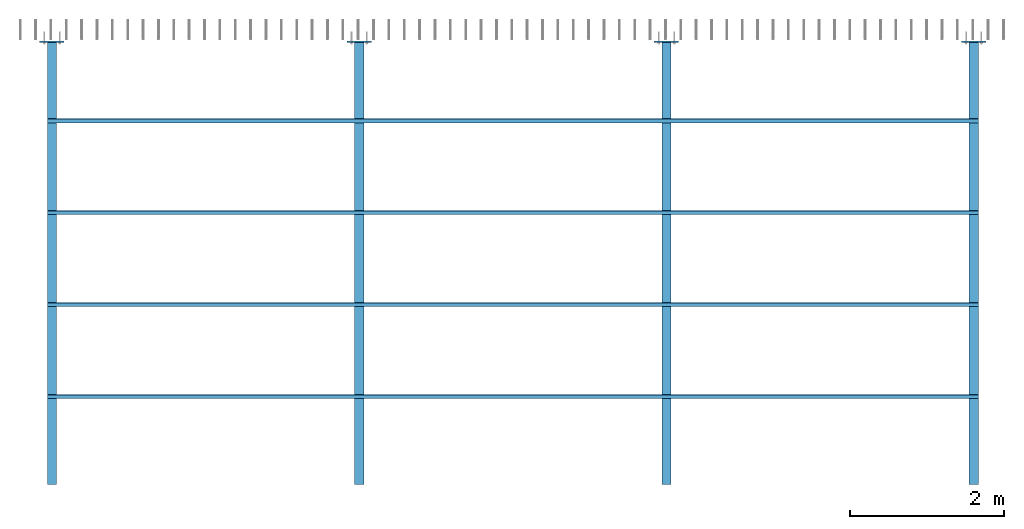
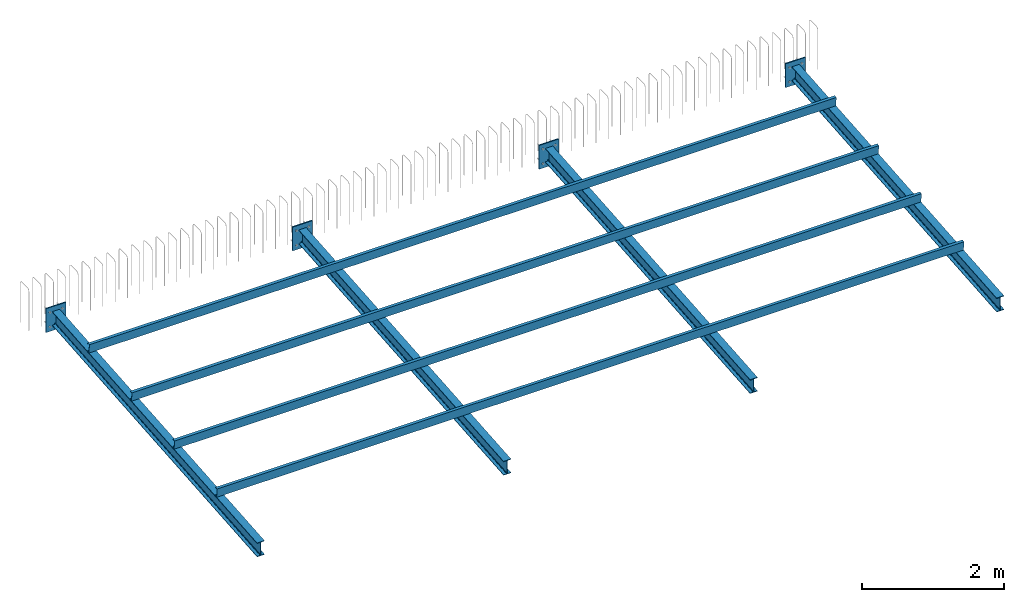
# One storey, incomplete: 4 beams, 4 members, 4 plates, 32 openings, 1 element without a shape of its own.
"""IFC4X3_ADD2 building model written with IfcOpenShell, lengths in millimetres."""

from ifc_helpers import new_model, entity, si_unit, converted_unit, derived_unit, direction, frame, frame_2d, origin, origin_with_axes, origin_2d, origin_2d_with_axis, place, context, subcontext, project, spatial, polyline, circle, i_section, outline, extrude, clip, halfspace, source, transform, mapped, material, layer, layer_set, material_profile, profile_set, type_object, type_shapes, element, aggregate, save


model = new_model("IFC4X3_ADD2")

# Units and contexts
model_context = context("Model", 3, precision=0.01, world=origin(), true_north=direction((6.123233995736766e-17, 1.0)))
plan_context = context("Plan", 3, precision=0.01, world=origin(), true_north=direction((6.123233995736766e-17, 1.0)))
body_context = subcontext(model_context, "Body", "Model", "MODEL_VIEW")
ifc_project = project(units=[si_unit("LENGTHUNIT", "METRE", prefix="MILLI"), converted_unit("PLANEANGLEUNIT", "DEGREE", entity("IfcPlaneAngleMeasure", 0.017453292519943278), si_unit("PLANEANGLEUNIT", "RADIAN"), dimensions=[0, 0, 0, 0, 0, 0, 0]), si_unit("AREAUNIT", "SQUARE_METRE"), si_unit("VOLUMEUNIT", "CUBIC_METRE"), derived_unit("THERMALTRANSMITTANCEUNIT", [(si_unit("MASSUNIT", "GRAM", prefix="KILO"), 1), (si_unit("THERMODYNAMICTEMPERATUREUNIT", "KELVIN"), -1), (si_unit("TIMEUNIT", "SECOND"), -3)]), derived_unit("USERDEFINED", [(si_unit("MASSUNIT", "GRAM", prefix="KILO"), 1), (si_unit("THERMODYNAMICTEMPERATUREUNIT", "KELVIN"), -1), (si_unit("TIMEUNIT", "SECOND"), -2)]), derived_unit("THERMALRESISTANCEUNIT", [(si_unit("MASSUNIT", "GRAM", prefix="KILO"), -1), (si_unit("TIMEUNIT", "SECOND"), 3), (si_unit("THERMODYNAMICTEMPERATUREUNIT", "KELVIN"), 1)]), si_unit("MASSUNIT", "GRAM", prefix="KILO"), derived_unit("MOMENTOFINERTIAUNIT", [(si_unit("LENGTHUNIT", "METRE"), 4)]), derived_unit("LINEARFORCEUNIT", [(si_unit("MASSUNIT", "GRAM", prefix="KILO"), 1), (si_unit("TIMEUNIT", "SECOND"), -2)]), derived_unit("WARPINGCONSTANTUNIT", [(si_unit("LENGTHUNIT", "METRE"), 6)]), si_unit("PRESSUREUNIT", "PASCAL"), derived_unit("MASSDENSITYUNIT", [(si_unit("MASSUNIT", "GRAM", prefix="KILO"), 1), (si_unit("LENGTHUNIT", "METRE"), -3)]), derived_unit("MODULUSOFELASTICITYUNIT", [(si_unit("MASSUNIT", "GRAM", prefix="KILO"), 1), (si_unit("TIMEUNIT", "SECOND"), -2), (si_unit("LENGTHUNIT", "METRE"), -1)]), derived_unit("THERMALEXPANSIONCOEFFICIENTUNIT", [(si_unit("THERMODYNAMICTEMPERATUREUNIT", "KELVIN"), -1)]), derived_unit("VAPORPERMEABILITYUNIT", [(si_unit("LENGTHUNIT", "METRE"), -1), (si_unit("TIMEUNIT", "SECOND"), 1)]), derived_unit("USERDEFINED", [(si_unit("MASSUNIT", "GRAM", prefix="KILO"), 1), (si_unit("TIMEUNIT", "SECOND"), -3), (si_unit("LENGTHUNIT", "METRE"), 3), (si_unit("ELECTRICCURRENTUNIT", "AMPERE"), -2)]), derived_unit("SPECIFICHEATCAPACITYUNIT", [(si_unit("THERMODYNAMICTEMPERATUREUNIT", "KELVIN"), -1), (si_unit("TIMEUNIT", "SECOND"), -2), (si_unit("LENGTHUNIT", "METRE"), 2)]), derived_unit("THERMALCONDUCTANCEUNIT", [(si_unit("MASSUNIT", "GRAM", prefix="KILO"), 1), (si_unit("THERMODYNAMICTEMPERATUREUNIT", "KELVIN"), -1), (si_unit("TIMEUNIT", "SECOND"), -3), (si_unit("LENGTHUNIT", "METRE"), 1)])], contexts=[model_context, plan_context])

# Site, building, storey
site_placement = place(None, origin())
site = spatial("IfcSite", under=ifc_project, at=site_placement, Name="Default", CompositionType="ELEMENT")
building_placement = place(site_placement, origin())
building = spatial("IfcBuilding", under=site, at=building_placement, Name="Complex structure", CompositionType="ELEMENT")
storey_placement = place(building_placement, frame((0.0, 0.0, 4000.0)))
storey = spatial("IfcBuildingStorey", under=building, at=storey_placement, Name="Level 02", CompositionType="ELEMENT", Elevation=4000.0000000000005)

# Assembly, beams
assembly_placement = place(storey_placement, origin())
assembly = element("IfcElementAssembly", 1, at=assembly_placement, inside=storey, Name="Structural Beam System:Structural Framing System", ObjectType="Structural Beam System:Structural Framing System", AssemblyPlace="NOTDEFINED", PredefinedType="BEAM_GRID")
ifc_material_1 = material(Name="Lindab_000_Galvanized")
ifc_material_profile = material_profile(ifc_material_1, outline(polyline([(-75.0, -11.916666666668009), (-60.0, -11.916666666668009), (-60.0, -10.416666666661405), (-73.4999999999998, -10.416666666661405), (-73.4999999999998, 27.583333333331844), (73.50000000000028, 27.583333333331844), (73.50000000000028, -16.41666666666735), (60.0, -16.41666666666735), (60.0, -17.91666666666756), (75.0, -17.91666666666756), (75.0, 29.083333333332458), (-75.0, 29.083333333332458), (-75.0, -11.916666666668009)])), Name="Lindab C 150/1.5")
ifc_profile_set = profile_set([ifc_material_profile], Name="Lindab C 150/1.5")
beam_type_1 = type_object("IfcBeamType", Name="Construction_Beams-&-Lintels_Lindab_C-HU:Lindab C 150/1.5", PredefinedType="JOIST", material=ifc_profile_set)
shared_shape_1 = source(origin(), body_context, "Body", "SweptSolid", [
    extrude(outline(polyline([(-75.0, -11.916666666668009), (-60.0, -11.916666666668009), (-60.0, -10.416666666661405), (-73.4999999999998, -10.416666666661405), (-73.4999999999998, 27.583333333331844), (73.50000000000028, 27.583333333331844), (73.50000000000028, -16.41666666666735), (60.0, -16.41666666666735), (60.0, -17.91666666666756), (75.0, -17.91666666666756), (75.0, 29.083333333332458), (-75.0, 29.083333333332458), (-75.0, -11.916666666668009)])), frame((-6060.0, 0.0, 29.083333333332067), z_axis=(1.0, 0.0, 0.0), x_axis=(0.0, -1.0, 0.0)), (0.0, 0.0, 1.0), 12120.0),
])
type_shapes(beam_type_1, [shared_shape_1])
beam_1_placement = place(assembly_placement, frame((-7145.526350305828, 3530.0972521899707, 476.3402957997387), z_axis=(0.0, 0.9965457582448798, 0.08304547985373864), x_axis=(1.0, 0.0, 0.0)))
beam_1 = element("IfcBeam", 2, at=beam_1_placement, type_object=beam_type_1, Name="Construction_Beams-&-Lintels_Lindab_C-HU:Lindab C 150/1.5", ObjectType="Construction_Beams-&-Lintels_Lindab_C-HU:Lindab C 150/1.5", PredefinedType="JOIST", context=body_context, shape_type="MappedRepresentation", body=[
    mapped(shared_shape_1, transform((0.0, 0.0, 0.0), scale=1.0)),
])
beam_2_placement = place(assembly_placement, frame((-7145.526350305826, 2334.242342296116, 376.6857199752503), z_axis=(0.0, 0.9965457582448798, 0.08304547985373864), x_axis=(1.0, 0.0, 0.0)))
beam_2 = element("IfcBeam", 3, at=beam_2_placement, type_object=beam_type_1, Name="Construction_Beams-&-Lintels_Lindab_C-HU:Lindab C 150/1.5", ObjectType="Construction_Beams-&-Lintels_Lindab_C-HU:Lindab C 150/1.5", PredefinedType="JOIST", context=body_context, shape_type="MappedRepresentation", body=[
    mapped(shared_shape_1, transform((0.0, 0.0, 0.0), scale=1.0)),
])
beam_type_2 = type_object("IfcBeamType", Name="Construction_Beams-&-Lintels_Lindab_C-HU:Lindab C 150/1.5", PredefinedType="JOIST", material=ifc_profile_set)
shared_shape_2 = source(origin(), body_context, "Body", "SweptSolid", [
    extrude(outline(polyline([(-75.0, -11.916666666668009), (-60.0, -11.916666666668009), (-60.0, -10.416666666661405), (-73.4999999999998, -10.416666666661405), (-73.4999999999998, 27.583333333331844), (73.50000000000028, 27.583333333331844), (73.50000000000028, -16.41666666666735), (60.0, -16.41666666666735), (60.0, -17.91666666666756), (75.0, -17.91666666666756), (75.0, 29.083333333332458), (-75.0, 29.083333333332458), (-75.0, -11.916666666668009)])), frame((-6060.0, 0.0, 29.083333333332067), z_axis=(1.0, 0.0, 0.0), x_axis=(0.0, -1.0, 0.0)), (0.0, 0.0, 1.0), 12120.0),
])
type_shapes(beam_type_2, [shared_shape_2])
beam_3_placement = place(assembly_placement, frame((-7145.221550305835, 1138.38743240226, 277.03114415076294), z_axis=(0.0, 0.9965457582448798, 0.08304547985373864), x_axis=(1.0, 0.0, 0.0)))
beam_3 = element("IfcBeam", 4, at=beam_3_placement, type_object=beam_type_2, Name="Construction_Beams-&-Lintels_Lindab_C-HU:Lindab C 150/1.5", ObjectType="Construction_Beams-&-Lintels_Lindab_C-HU:Lindab C 150/1.5", PredefinedType="JOIST", context=body_context, shape_type="MappedRepresentation", body=[
    mapped(shared_shape_2, transform((0.0, 0.0, 0.0), scale=1.0)),
])
beam_type_3 = type_object("IfcBeamType", Name="Construction_Beams-&-Lintels_Lindab_C-HU:Lindab C 150/1.5", PredefinedType="JOIST", material=ifc_profile_set)
shared_shape_3 = source(origin(), body_context, "Body", "SweptSolid", [
    extrude(outline(polyline([(-75.0, -11.916666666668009), (-60.0, -11.916666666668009), (-60.0, -10.416666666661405), (-73.4999999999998, -10.416666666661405), (-73.4999999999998, 27.583333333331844), (73.50000000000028, 27.583333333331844), (73.50000000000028, -16.41666666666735), (60.0, -16.41666666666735), (60.0, -17.91666666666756), (75.0, -17.91666666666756), (75.0, 29.083333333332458), (-75.0, 29.083333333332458), (-75.0, -11.916666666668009)])), frame((-6060.0, 0.0, 29.083333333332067), z_axis=(1.0, 0.0, 0.0), x_axis=(0.0, -1.0, 0.0)), (0.0, 0.0, 1.0), 12120.0),
])
type_shapes(beam_type_3, [shared_shape_3])
beam_4_placement = place(assembly_placement, frame((-7145.221550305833, -57.46747749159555, 177.37656832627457), z_axis=(0.0, 0.9965457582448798, 0.08304547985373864), x_axis=(1.0, 0.0, 0.0)))
beam_4 = element("IfcBeam", 5, at=beam_4_placement, type_object=beam_type_3, Name="Construction_Beams-&-Lintels_Lindab_C-HU:Lindab C 150/1.5", ObjectType="Construction_Beams-&-Lintels_Lindab_C-HU:Lindab C 150/1.5", PredefinedType="JOIST", context=body_context, shape_type="MappedRepresentation", body=[
    mapped(shared_shape_3, transform((0.0, 0.0, 0.0), scale=1.0)),
])
aggregate(assembly, [beam_1, beam_2, beam_3, beam_4])

# Members
ifc_material_2 = material(Name="Structural Steel - S235", Category="Metal")
member_type_1 = type_object("IfcMemberType", Name="IPE-Beams:IPE240", PredefinedType="MEMBER", material=ifc_material_2)
member_1_placement = place(storey_placement, frame((-13145.221550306, -1527.065325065, -140.7658308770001), z_axis=(0.0, -0.9965457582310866, -0.08304548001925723), x_axis=(1.0, 0.0, 0.0)))
element("IfcMember", 6, at=member_1_placement, inside=storey, type_object=member_type_1, material=ifc_material_2, Name="IPE-Beams:IPE240", ObjectType="IPE240", context=model_context, shape_type="Clipping", body=[
    clip(clip(extrude(i_section(OverallWidth=120.0, OverallDepth=240.0, WebThickness=6.2, FlangeThickness=9.8, FilletRadius=15.0, at=origin_2d()), origin(), (0.0, 0.0, -1.0), 6380.367489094), halfspace(frame((13145.221550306, -3874.155482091, -18.532535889), z_axis=(0.0, -0.08304548, -0.996545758), x_axis=(-1.0, 0.0, 0.0)), True)), halfspace(frame((13145.221550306, -4351.999007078, -5752.654835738), z_axis=(0.0, 0.08304548, 0.996545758), x_axis=(1.0, 0.0, 0.0)), True)),
])
member_type_2 = type_object("IfcMemberType", Name="IPE-Beams:IPE240", PredefinedType="MEMBER", material=ifc_material_2)
member_2_placement = place(storey_placement, frame((-9145.526350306, -1527.065325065, -140.7658308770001), z_axis=(0.0, -0.9965457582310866, -0.08304548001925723), x_axis=(1.0, 0.0, 0.0)))
element("IfcMember", 7, at=member_2_placement, inside=storey, type_object=member_type_2, material=ifc_material_2, Name="IPE-Beams:IPE240", ObjectType="IPE240", context=model_context, shape_type="Clipping", body=[
    clip(clip(extrude(i_section(OverallWidth=120.0, OverallDepth=240.0, WebThickness=6.2, FlangeThickness=9.8, FilletRadius=15.0, at=origin_2d()), origin(), (0.0, 0.0, -1.0), 6380.367489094), halfspace(frame((9145.526350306, -3874.155482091, -18.532535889), z_axis=(0.0, -0.08304548, -0.996545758), x_axis=(-1.0, 0.0, 0.0)), True)), halfspace(frame((9145.526350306, -4351.999007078, -5752.654835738), z_axis=(0.0, 0.08304548, 0.996545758), x_axis=(1.0, 0.0, 0.0)), True)),
])
member_3_placement = place(storey_placement, frame((-5145.526350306, -1527.065325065, -140.7658308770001), z_axis=(0.0, -0.9965457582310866, -0.08304548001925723), x_axis=(1.0, 0.0, 0.0)))
element("IfcMember", 8, at=member_3_placement, inside=storey, type_object=member_type_2, material=ifc_material_2, Name="IPE-Beams:IPE240", ObjectType="IPE240", context=model_context, shape_type="Clipping", body=[
    clip(clip(extrude(i_section(OverallWidth=120.0, OverallDepth=240.0, WebThickness=6.2, FlangeThickness=9.8, FilletRadius=15.0, at=origin_2d()), origin(), (0.0, 0.0, -1.0), 6380.367489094), halfspace(frame((5145.526350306, -3874.155482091, -18.532535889), z_axis=(0.0, -0.08304548, -0.996545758), x_axis=(-1.0, 0.0, 0.0)), True)), halfspace(frame((5145.526350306, -4351.999007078, -5752.654835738), z_axis=(0.0, 0.08304548, 0.996545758), x_axis=(1.0, 0.0, 0.0)), True)),
])
member_4_placement = place(storey_placement, frame((-1145.526350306, -1527.065325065, -140.7658308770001), z_axis=(0.0, -0.9965457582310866, -0.08304548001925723), x_axis=(1.0, 0.0, 0.0)))
element("IfcMember", 9, at=member_4_placement, inside=storey, type_object=member_type_2, material=ifc_material_2, Name="IPE-Beams:IPE240", ObjectType="IPE240", context=model_context, shape_type="Clipping", body=[
    clip(clip(extrude(i_section(OverallWidth=120.0, OverallDepth=240.0, WebThickness=6.2, FlangeThickness=9.8, FilletRadius=15.0, at=origin_2d()), origin(), (0.0, 0.0, -1.0), 6380.367489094), halfspace(frame((1145.526350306, -3874.155482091, -18.532535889), z_axis=(0.0, -0.08304548, -0.996545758), x_axis=(-1.0, 0.0, 0.0)), True)), halfspace(frame((1145.526350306, -4351.999007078, -5752.654835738), z_axis=(0.0, 0.08304548, 0.996545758), x_axis=(1.0, 0.0, 0.0)), True)),
])

# Plate, openings
ifc_material_3 = material(Name="Metal Stud Layer")
ifc_layer = layer(ifc_material_3, 20.0)
ifc_layer_set = layer_set([ifc_layer], Name="Metal Stud Layer")
plate_1_placement = place(storey_placement, frame((-13305.221550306, 4567.133296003, 572.0840542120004), z_axis=(0.0, 1.0, 0.0), x_axis=(1.0, 0.0, 0.0)))
plate_1 = element("IfcPlate", 10, at=plate_1_placement, inside=storey, material=ifc_layer_set, Name="Baseplate", ObjectType="Baseplate", context=model_context, shape_type="SweptSolid", body=[
    extrude(outline(polyline([(0.0, 0.0), (320.0, 0.0), (320.0, 410.0), (0.0, 410.0), (0.0, 0.0)])), origin_with_axes(), (0.0, 0.0, 1.0), 20.0),
])
opening_1_placement = place(plate_1_placement, frame((178.1, 300.581976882, 20.5), z_axis=(0.0, 0.0, -1.0), x_axis=(0.0, 1.0, 0.0)))
element("IfcOpeningElement", 11, at=opening_1_placement, cuts=plate_1, ObjectType="Opening", context=model_context, shape_type="SweptSolid", body=[
    extrude(circle(Radius=9.526, at=origin_2d_with_axis()), origin(), (0.0, 0.0, 1.0), 21.0),
])
opening_2_placement = place(plate_1_placement, frame((178.1, 109.418023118, 20.5), z_axis=(0.0, 0.0, -1.0), x_axis=(0.0, 1.0, 0.0)))
element("IfcOpeningElement", 12, at=opening_2_placement, cuts=plate_1, ObjectType="Opening", context=model_context, shape_type="SweptSolid", body=[
    extrude(circle(Radius=9.526, at=origin_2d_with_axis()), origin(), (0.0, 0.0, 1.0), 21.0),
])
opening_3_placement = place(plate_1_placement, frame((141.9, 109.418023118, 20.5), z_axis=(0.0, 0.0, -1.0), x_axis=(0.0, 1.0, 0.0)))
element("IfcOpeningElement", 13, at=opening_3_placement, cuts=plate_1, ObjectType="Opening", context=model_context, shape_type="SweptSolid", body=[
    extrude(circle(Radius=9.526, at=origin_2d_with_axis()), origin(), (0.0, 0.0, 1.0), 21.0),
])
opening_4_placement = place(plate_1_placement, frame((141.9, 300.581976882, 20.5), z_axis=(0.0, 0.0, -1.0), x_axis=(0.0, 1.0, 0.0)))
element("IfcOpeningElement", 14, at=opening_4_placement, cuts=plate_1, ObjectType="Opening", context=model_context, shape_type="SweptSolid", body=[
    extrude(circle(Radius=9.526, at=origin_2d_with_axis()), origin(), (0.0, 0.0, 1.0), 21.0),
])
opening_5_placement = place(plate_1_placement, frame((160.0, 205.0, 20.5), z_axis=(0.0, 0.0, -1.0), x_axis=(1.0, 0.0, 0.0)))
element("IfcOpeningElement", 15, at=opening_5_placement, cuts=plate_1, ObjectType="Opening", context=model_context, shape_type="SweptSolid", body=[
    extrude(circle(Radius=13.96975, at=frame_2d((100.0, 125.0), x_axis=(1.0, 0.0))), origin(), (0.0, 0.0, 1.0), 21.0),
])
opening_6_placement = place(plate_1_placement, frame((160.0, 205.0, 20.5), z_axis=(0.0, 0.0, -1.0), x_axis=(1.0, 0.0, 0.0)))
element("IfcOpeningElement", 16, at=opening_6_placement, cuts=plate_1, ObjectType="Opening", context=model_context, shape_type="SweptSolid", body=[
    extrude(circle(Radius=13.96975, at=frame_2d((-100.0, 125.0), x_axis=(1.0, 0.0))), origin(), (0.0, 0.0, 1.0), 21.0),
])
opening_7_placement = place(plate_1_placement, frame((160.0, 205.0, 20.5), z_axis=(0.0, 0.0, -1.0), x_axis=(1.0, 0.0, 0.0)))
element("IfcOpeningElement", 17, at=opening_7_placement, cuts=plate_1, ObjectType="Opening", context=model_context, shape_type="SweptSolid", body=[
    extrude(circle(Radius=13.96975, at=frame_2d((100.0, -125.0), x_axis=(1.0, 0.0))), origin(), (0.0, 0.0, 1.0), 21.0),
])
opening_8_placement = place(plate_1_placement, frame((160.0, 205.0, 20.5), z_axis=(0.0, 0.0, -1.0), x_axis=(1.0, 0.0, 0.0)))
element("IfcOpeningElement", 18, at=opening_8_placement, cuts=plate_1, ObjectType="Opening", context=model_context, shape_type="SweptSolid", body=[
    extrude(circle(Radius=13.96975, at=frame_2d((-100.0, -125.0), x_axis=(1.0, 0.0))), origin(), (0.0, 0.0, 1.0), 21.0),
])

plate_2_placement = place(storey_placement, frame((-9305.526350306, 4567.133296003, 572.0840542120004), z_axis=(0.0, 1.0, 0.0), x_axis=(1.0, 0.0, 0.0)))
plate_2 = element("IfcPlate", 19, at=plate_2_placement, inside=storey, material=ifc_layer_set, Name="Baseplate", ObjectType="Baseplate", context=model_context, shape_type="SweptSolid", body=[
    extrude(outline(polyline([(0.0, 0.0), (320.0, 0.0), (320.0, 410.0), (0.0, 410.0), (0.0, 0.0)])), origin_with_axes(), (0.0, 0.0, 1.0), 20.0),
])
opening_9_placement = place(plate_2_placement, frame((178.1, 300.581976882, 20.5), z_axis=(0.0, 0.0, -1.0), x_axis=(0.0, 1.0, 0.0)))
element("IfcOpeningElement", 20, at=opening_9_placement, cuts=plate_2, ObjectType="Opening", context=model_context, shape_type="SweptSolid", body=[
    extrude(circle(Radius=9.526, at=origin_2d_with_axis()), origin(), (0.0, 0.0, 1.0), 21.0),
])
opening_10_placement = place(plate_2_placement, frame((178.1, 109.418023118, 20.5), z_axis=(0.0, 0.0, -1.0), x_axis=(0.0, 1.0, 0.0)))
element("IfcOpeningElement", 21, at=opening_10_placement, cuts=plate_2, ObjectType="Opening", context=model_context, shape_type="SweptSolid", body=[
    extrude(circle(Radius=9.526, at=origin_2d_with_axis()), origin(), (0.0, 0.0, 1.0), 21.0),
])
opening_11_placement = place(plate_2_placement, frame((141.9, 109.418023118, 20.5), z_axis=(0.0, 0.0, -1.0), x_axis=(0.0, 1.0, 0.0)))
element("IfcOpeningElement", 22, at=opening_11_placement, cuts=plate_2, ObjectType="Opening", context=model_context, shape_type="SweptSolid", body=[
    extrude(circle(Radius=9.526, at=origin_2d_with_axis()), origin(), (0.0, 0.0, 1.0), 21.0),
])
opening_12_placement = place(plate_2_placement, frame((141.9, 300.581976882, 20.5), z_axis=(0.0, 0.0, -1.0), x_axis=(0.0, 1.0, 0.0)))
element("IfcOpeningElement", 23, at=opening_12_placement, cuts=plate_2, ObjectType="Opening", context=model_context, shape_type="SweptSolid", body=[
    extrude(circle(Radius=9.526, at=origin_2d_with_axis()), origin(), (0.0, 0.0, 1.0), 21.0),
])
opening_13_placement = place(plate_2_placement, frame((160.0, 205.0, 20.5), z_axis=(0.0, 0.0, -1.0), x_axis=(1.0, 0.0, 0.0)))
element("IfcOpeningElement", 24, at=opening_13_placement, cuts=plate_2, ObjectType="Opening", context=model_context, shape_type="SweptSolid", body=[
    extrude(circle(Radius=13.96975, at=frame_2d((100.0, 125.0), x_axis=(1.0, 0.0))), origin(), (0.0, 0.0, 1.0), 21.0),
])
opening_14_placement = place(plate_2_placement, frame((160.0, 205.0, 20.5), z_axis=(0.0, 0.0, -1.0), x_axis=(1.0, 0.0, 0.0)))
element("IfcOpeningElement", 25, at=opening_14_placement, cuts=plate_2, ObjectType="Opening", context=model_context, shape_type="SweptSolid", body=[
    extrude(circle(Radius=13.96975, at=frame_2d((-100.0, 125.0), x_axis=(1.0, 0.0))), origin(), (0.0, 0.0, 1.0), 21.0),
])
opening_15_placement = place(plate_2_placement, frame((160.0, 205.0, 20.5), z_axis=(0.0, 0.0, -1.0), x_axis=(1.0, 0.0, 0.0)))
element("IfcOpeningElement", 26, at=opening_15_placement, cuts=plate_2, ObjectType="Opening", context=model_context, shape_type="SweptSolid", body=[
    extrude(circle(Radius=13.96975, at=frame_2d((100.0, -125.0), x_axis=(1.0, 0.0))), origin(), (0.0, 0.0, 1.0), 21.0),
])
opening_16_placement = place(plate_2_placement, frame((160.0, 205.0, 20.5), z_axis=(0.0, 0.0, -1.0), x_axis=(1.0, 0.0, 0.0)))
element("IfcOpeningElement", 27, at=opening_16_placement, cuts=plate_2, ObjectType="Opening", context=model_context, shape_type="SweptSolid", body=[
    extrude(circle(Radius=13.96975, at=frame_2d((-100.0, -125.0), x_axis=(1.0, 0.0))), origin(), (0.0, 0.0, 1.0), 21.0),
])

plate_3_placement = place(storey_placement, frame((-5305.526350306, 4567.133296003, 572.0840542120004), z_axis=(0.0, 1.0, 0.0), x_axis=(1.0, 0.0, 0.0)))
plate_3 = element("IfcPlate", 28, at=plate_3_placement, inside=storey, material=ifc_layer_set, Name="Baseplate", ObjectType="Baseplate", context=model_context, shape_type="SweptSolid", body=[
    extrude(outline(polyline([(0.0, 0.0), (320.0, 0.0), (320.0, 410.0), (0.0, 410.0), (0.0, 0.0)])), origin_with_axes(), (0.0, 0.0, 1.0), 20.0),
])
opening_17_placement = place(plate_3_placement, frame((178.1, 300.581976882, 20.5), z_axis=(0.0, 0.0, -1.0), x_axis=(0.0, 1.0, 0.0)))
element("IfcOpeningElement", 29, at=opening_17_placement, cuts=plate_3, ObjectType="Opening", context=model_context, shape_type="SweptSolid", body=[
    extrude(circle(Radius=9.526, at=origin_2d_with_axis()), origin(), (0.0, 0.0, 1.0), 21.0),
])
opening_18_placement = place(plate_3_placement, frame((178.1, 109.418023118, 20.5), z_axis=(0.0, 0.0, -1.0), x_axis=(0.0, 1.0, 0.0)))
element("IfcOpeningElement", 30, at=opening_18_placement, cuts=plate_3, ObjectType="Opening", context=model_context, shape_type="SweptSolid", body=[
    extrude(circle(Radius=9.526, at=origin_2d_with_axis()), origin(), (0.0, 0.0, 1.0), 21.0),
])
opening_19_placement = place(plate_3_placement, frame((141.9, 109.418023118, 20.5), z_axis=(0.0, 0.0, -1.0), x_axis=(0.0, 1.0, 0.0)))
element("IfcOpeningElement", 31, at=opening_19_placement, cuts=plate_3, ObjectType="Opening", context=model_context, shape_type="SweptSolid", body=[
    extrude(circle(Radius=9.526, at=origin_2d_with_axis()), origin(), (0.0, 0.0, 1.0), 21.0),
])
opening_20_placement = place(plate_3_placement, frame((141.9, 300.581976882, 20.5), z_axis=(0.0, 0.0, -1.0), x_axis=(0.0, 1.0, 0.0)))
element("IfcOpeningElement", 32, at=opening_20_placement, cuts=plate_3, ObjectType="Opening", context=model_context, shape_type="SweptSolid", body=[
    extrude(circle(Radius=9.526, at=origin_2d_with_axis()), origin(), (0.0, 0.0, 1.0), 21.0),
])
opening_21_placement = place(plate_3_placement, frame((160.0, 205.0, 20.5), z_axis=(0.0, 0.0, -1.0), x_axis=(1.0, 0.0, 0.0)))
element("IfcOpeningElement", 33, at=opening_21_placement, cuts=plate_3, ObjectType="Opening", context=model_context, shape_type="SweptSolid", body=[
    extrude(circle(Radius=13.96975, at=frame_2d((100.0, 125.0), x_axis=(1.0, 0.0))), origin(), (0.0, 0.0, 1.0), 21.0),
])
opening_22_placement = place(plate_3_placement, frame((160.0, 205.0, 20.5), z_axis=(0.0, 0.0, -1.0), x_axis=(1.0, 0.0, 0.0)))
element("IfcOpeningElement", 34, at=opening_22_placement, cuts=plate_3, ObjectType="Opening", context=model_context, shape_type="SweptSolid", body=[
    extrude(circle(Radius=13.96975, at=frame_2d((-100.0, 125.0), x_axis=(1.0, 0.0))), origin(), (0.0, 0.0, 1.0), 21.0),
])
opening_23_placement = place(plate_3_placement, frame((160.0, 205.0, 20.5), z_axis=(0.0, 0.0, -1.0), x_axis=(1.0, 0.0, 0.0)))
element("IfcOpeningElement", 35, at=opening_23_placement, cuts=plate_3, ObjectType="Opening", context=model_context, shape_type="SweptSolid", body=[
    extrude(circle(Radius=13.96975, at=frame_2d((100.0, -125.0), x_axis=(1.0, 0.0))), origin(), (0.0, 0.0, 1.0), 21.0),
])
opening_24_placement = place(plate_3_placement, frame((160.0, 205.0, 20.5), z_axis=(0.0, 0.0, -1.0), x_axis=(1.0, 0.0, 0.0)))
element("IfcOpeningElement", 36, at=opening_24_placement, cuts=plate_3, ObjectType="Opening", context=model_context, shape_type="SweptSolid", body=[
    extrude(circle(Radius=13.96975, at=frame_2d((-100.0, -125.0), x_axis=(1.0, 0.0))), origin(), (0.0, 0.0, 1.0), 21.0),
])

plate_4_placement = place(storey_placement, frame((-1305.526350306, 4567.133296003, 572.0840542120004), z_axis=(0.0, 1.0, 0.0), x_axis=(1.0, 0.0, 0.0)))
plate_4 = element("IfcPlate", 37, at=plate_4_placement, inside=storey, material=ifc_layer_set, Name="Baseplate", ObjectType="Baseplate", context=model_context, shape_type="SweptSolid", body=[
    extrude(outline(polyline([(0.0, 0.0), (320.0, 0.0), (320.0, 410.0), (0.0, 410.0), (0.0, 0.0)])), origin_with_axes(), (0.0, 0.0, 1.0), 20.0),
])
opening_25_placement = place(plate_4_placement, frame((178.1, 300.581976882, 20.5), z_axis=(0.0, 0.0, -1.0), x_axis=(0.0, 1.0, 0.0)))
element("IfcOpeningElement", 38, at=opening_25_placement, cuts=plate_4, ObjectType="Opening", context=model_context, shape_type="SweptSolid", body=[
    extrude(circle(Radius=9.526, at=origin_2d_with_axis()), origin(), (0.0, 0.0, 1.0), 21.0),
])
opening_26_placement = place(plate_4_placement, frame((178.1, 109.418023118, 20.5), z_axis=(0.0, 0.0, -1.0), x_axis=(0.0, 1.0, 0.0)))
element("IfcOpeningElement", 39, at=opening_26_placement, cuts=plate_4, ObjectType="Opening", context=model_context, shape_type="SweptSolid", body=[
    extrude(circle(Radius=9.526, at=origin_2d_with_axis()), origin(), (0.0, 0.0, 1.0), 21.0),
])
opening_27_placement = place(plate_4_placement, frame((141.9, 109.418023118, 20.5), z_axis=(0.0, 0.0, -1.0), x_axis=(0.0, 1.0, 0.0)))
element("IfcOpeningElement", 40, at=opening_27_placement, cuts=plate_4, ObjectType="Opening", context=model_context, shape_type="SweptSolid", body=[
    extrude(circle(Radius=9.526, at=origin_2d_with_axis()), origin(), (0.0, 0.0, 1.0), 21.0),
])
opening_28_placement = place(plate_4_placement, frame((141.9, 300.581976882, 20.5), z_axis=(0.0, 0.0, -1.0), x_axis=(0.0, 1.0, 0.0)))
element("IfcOpeningElement", 41, at=opening_28_placement, cuts=plate_4, ObjectType="Opening", context=model_context, shape_type="SweptSolid", body=[
    extrude(circle(Radius=9.526, at=origin_2d_with_axis()), origin(), (0.0, 0.0, 1.0), 21.0),
])
opening_29_placement = place(plate_4_placement, frame((160.0, 205.0, 20.5), z_axis=(0.0, 0.0, -1.0), x_axis=(1.0, 0.0, 0.0)))
element("IfcOpeningElement", 42, at=opening_29_placement, cuts=plate_4, ObjectType="Opening", context=model_context, shape_type="SweptSolid", body=[
    extrude(circle(Radius=13.96975, at=frame_2d((100.0, 125.0), x_axis=(1.0, 0.0))), origin(), (0.0, 0.0, 1.0), 21.0),
])
opening_30_placement = place(plate_4_placement, frame((160.0, 205.0, 20.5), z_axis=(0.0, 0.0, -1.0), x_axis=(1.0, 0.0, 0.0)))
element("IfcOpeningElement", 43, at=opening_30_placement, cuts=plate_4, ObjectType="Opening", context=model_context, shape_type="SweptSolid", body=[
    extrude(circle(Radius=13.96975, at=frame_2d((-100.0, 125.0), x_axis=(1.0, 0.0))), origin(), (0.0, 0.0, 1.0), 21.0),
])
opening_31_placement = place(plate_4_placement, frame((160.0, 205.0, 20.5), z_axis=(0.0, 0.0, -1.0), x_axis=(1.0, 0.0, 0.0)))
element("IfcOpeningElement", 44, at=opening_31_placement, cuts=plate_4, ObjectType="Opening", context=model_context, shape_type="SweptSolid", body=[
    extrude(circle(Radius=13.96975, at=frame_2d((100.0, -125.0), x_axis=(1.0, 0.0))), origin(), (0.0, 0.0, 1.0), 21.0),
])
opening_32_placement = place(plate_4_placement, frame((160.0, 205.0, 20.5), z_axis=(0.0, 0.0, -1.0), x_axis=(1.0, 0.0, 0.0)))
element("IfcOpeningElement", 45, at=opening_32_placement, cuts=plate_4, ObjectType="Opening", context=model_context, shape_type="SweptSolid", body=[
    extrude(circle(Radius=13.96975, at=frame_2d((-100.0, -125.0), x_axis=(1.0, 0.0))), origin(), (0.0, 0.0, 1.0), 21.0),
])

save(model, "model.ifc")
